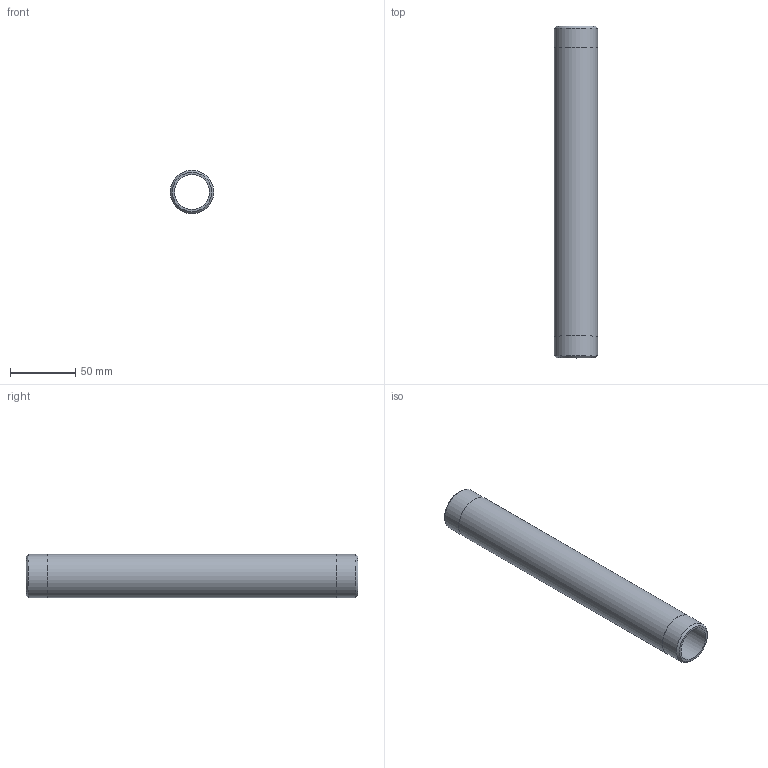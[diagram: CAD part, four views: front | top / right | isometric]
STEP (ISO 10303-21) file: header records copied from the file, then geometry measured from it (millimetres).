
FILE_DESCRIPTION(/* description */ (''),/* implementation_level */ '2;1');
FILE_NAME(/* name */ 'C:/Users/drich/Desktop/SSPN1-10 v1.step',/* time_stamp */ '2020-01-03T16:30:47-06:00',/* author */ (''),/* organization */ (''),/* preprocessor_version */ 'ST-DEVELOPER v18',/* originating_system */ 'Autodesk Translation Framework v8.12.0.6',/* authorisation */ '');
FILE_SCHEMA (('AUTOMOTIVE_DESIGN { 1 0 10303 214 3 1 1 }'));
Length unit declared in the file: inch
Products named in the file (1): SSPN1-10
Bounding box: 33.4 x 254 x 33.4 mm (x, y, z)
Volume: 80566.4 mm3; surface area: 48336.4 mm2
Topology: 1 solids, 1 shells, 10 faces, 24 edges, 18 vertices
Faces by surface type: cylinder 4, plane 4, cone 2
Full cylindrical faces by diameter (mm): 26.645 x1, 33.35 x2, 33.401 x1
Entity records: 353 total; most frequent: DIRECTION 64, CARTESIAN_POINT 53, ORIENTED_EDGE 48, AXIS2_PLACEMENT_3D 29, EDGE_CURVE 24, CIRCLE 18, VERTEX_POINT 18, EDGE_LOOP 14
